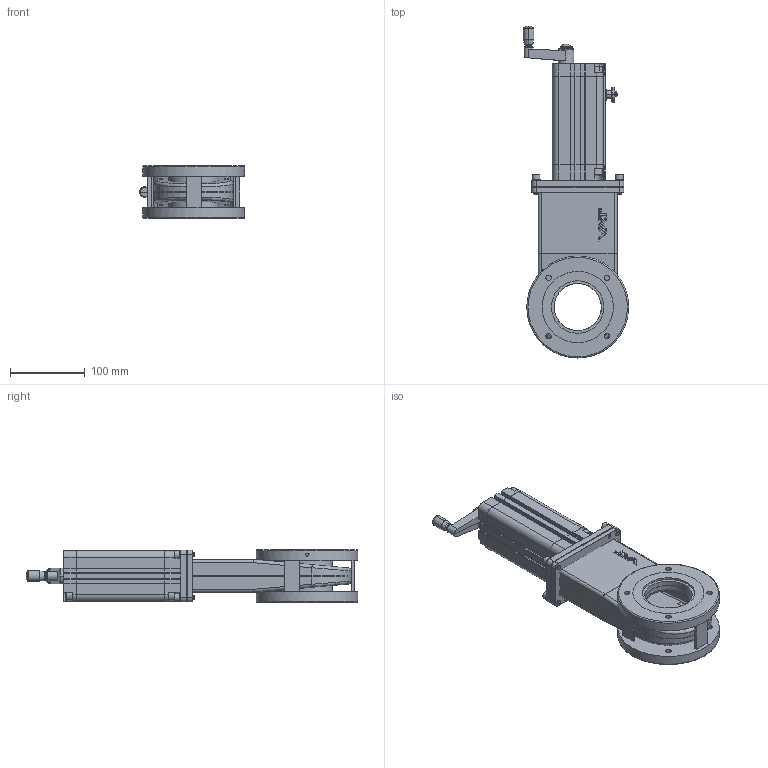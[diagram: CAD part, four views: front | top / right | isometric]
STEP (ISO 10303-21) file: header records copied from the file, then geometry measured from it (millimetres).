
FILE_DESCRIPTION(/* description */ (''),/* implementation_level */ '2;1');
FILE_NAME(/* name */ '1459441297_203.stp',/* time_stamp */ '2011-01-26T16:00:27+01:00',/* author */ (''),/* organization */ (''),/* preprocessor_version */ 'ST-DEVELOPER v11',/* originating_system */ 'SIEMENS UGS NX 6.0',/* authorisation */ '');
FILE_SCHEMA (('CONFIG_CONTROL_DESIGN'));
Length unit declared in the file: millimetre
Products named in the file (28): 255554.2; 359586.6; 301626.1; 342971.1; 343006.1; N-6092-118.1; 261334.1; 255556.2; 306405.1; 255557.2; 306404.3; 251262.4; 218189; n-6195-408; n-6134-408; 260719.2; 260826.1; 260722.6; 332680.2; 261405.3; 255550.3; 259597.1; 301646.1; 259432.1; 359599.5_NX-ARRAGMNTZUSAMMENST1; 343008.1; 261335.1; 372176.2
Assembly tree (42 placements, depth 3):
  372176.2
    259432.1
    301646.1
    259597.1  x4
    255550.3
    261405.3
    261335.1
      261334.1
      N-6092-118.1  x2
    332680.2
    260722.6
    260826.1
    343008.1
      343006.1
      342971.1  x2
      301626.1
    260719.2
    n-6134-408  x4
    n-6195-408
    218189  x4
    251262.4  x3
    306404.3
    255557.2  x2
    359599.5_NX-ARRAGMNTZUSAMMENST1
      359586.6  x2
      255554.2
    306405.1
    255556.2
Bounding box: 140.4 x 443.06 x 70 mm (x, y, z)
Volume: 985315.5 mm3; surface area: 393308.2 mm2
Topology: 47 solids, 47 shells, 1242 faces, 3239 edges, 2141 vertices
Faces by surface type: plane 688, cylinder 361, revolution 94, cone 57, bspline 26, sphere 12, torus 4
Full cylindrical faces by diameter (mm): 2.2 x1, 3.17 x1, 4 x2, 4.96 x4, 4.976 x2, 4.985 x1, 5 x8, 5.2 x6, 5.22 x4, 5.3 x1, 6 x8, 6.4 x4, 6.5 x10, 7.2 x8, 10 x4, 10.008 x1, 10.4 x4, 11 x6, 11.5 x4, 12 x2, 14 x3, 15 x1, 15.2 x1, 16 x1, 16.2 x1, 21.976 x1, 23 x1, 25.345 x1, 30.011 x1, 30.03 x1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
Entity records: 32793 total; most frequent: CARTESIAN_POINT 6835, DIRECTION 4627, ORIENTED_EDGE 4530, EDGE_CURVE 2265, VERTEX_POINT 1601, AXIS2_PLACEMENT_3D 1599, LINE 1377, VECTOR 1377
